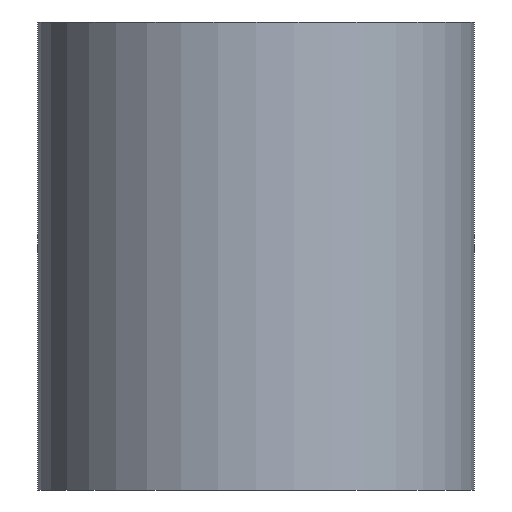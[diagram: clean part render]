
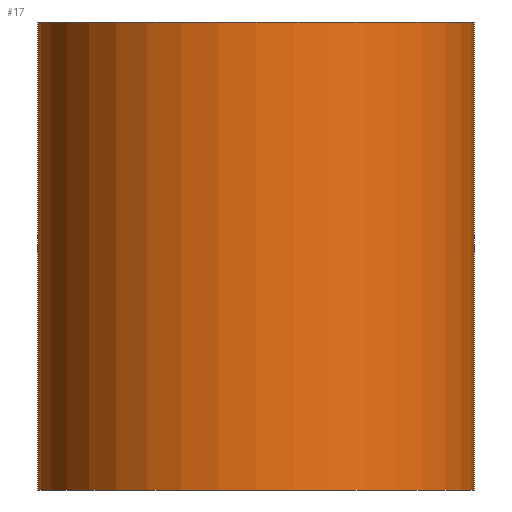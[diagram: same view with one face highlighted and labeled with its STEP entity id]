
A CAD part, front view. The second image highlights one B-rep face of the part: STEP entity #17.
In plain terms, the highlighted cylindrical face has radius 9 mm (diameter 18 mm), a full revolution.
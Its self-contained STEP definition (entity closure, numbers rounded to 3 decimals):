
#17 = ADVANCED_FACE('',(#18),#31,.T.);
#18 = FACE_BOUND('',#19,.T.);
#19 = EDGE_LOOP('',(#20,#54,#77,#104));
#20 = ORIENTED_EDGE('',*,*,#21,.F.);
#21 = EDGE_CURVE('',#22,#22,#24,.T.);
#22 = VERTEX_POINT('',#23);
#23 = CARTESIAN_POINT('',(9.,0.,9.65));
#24 = SURFACE_CURVE('',#25,(#30,#42),.PCURVE_S1.);
#25 = CIRCLE('',#26,9.);
#26 = AXIS2_PLACEMENT_3D('',#27,#28,#29);
#27 = CARTESIAN_POINT('',(0.,0.,9.65));
#28 = DIRECTION('',(0.,0.,1.));
#29 = DIRECTION('',(1.,0.,0.));
#30 = PCURVE('',#31,#36);
#31 = CYLINDRICAL_SURFACE('',#32,9.);
#32 = AXIS2_PLACEMENT_3D('',#33,#34,#35);
#33 = CARTESIAN_POINT('',(0.,0.,-9.65));
#34 = DIRECTION('',(0.,0.,1.));
#35 = DIRECTION('',(1.,0.,0.));
#36 = DEFINITIONAL_REPRESENTATION('',(#37),#41);
#37 = LINE('',#38,#39);
#38 = CARTESIAN_POINT('',(0.,19.3));
#39 = VECTOR('',#40,1.);
#40 = DIRECTION('',(1.,0.));
#41 = ( GEOMETRIC_REPRESENTATION_CONTEXT(2) 
PARAMETRIC_REPRESENTATION_CONTEXT() REPRESENTATION_CONTEXT('2D SPACE',''
  ) );
#42 = PCURVE('',#43,#48);
#43 = PLANE('',#44);
#44 = AXIS2_PLACEMENT_3D('',#45,#46,#47);
#45 = CARTESIAN_POINT('',(0.,0.,9.65));
#46 = DIRECTION('',(0.,0.,1.));
#47 = DIRECTION('',(1.,0.,0.));
#48 = DEFINITIONAL_REPRESENTATION('',(#49),#53);
#49 = CIRCLE('',#50,9.);
#50 = AXIS2_PLACEMENT_2D('',#51,#52);
#51 = CARTESIAN_POINT('',(0.,0.));
#52 = DIRECTION('',(1.,0.));
#53 = ( GEOMETRIC_REPRESENTATION_CONTEXT(2) 
PARAMETRIC_REPRESENTATION_CONTEXT() REPRESENTATION_CONTEXT('2D SPACE',''
  ) );
#54 = ORIENTED_EDGE('',*,*,#55,.F.);
#55 = EDGE_CURVE('',#56,#22,#58,.T.);
#56 = VERTEX_POINT('',#57);
#57 = CARTESIAN_POINT('',(9.,0.,-9.65));
#58 = SEAM_CURVE('',#59,(#63,#70),.PCURVE_S1.);
#59 = LINE('',#60,#61);
#60 = CARTESIAN_POINT('',(9.,0.,-9.65));
#61 = VECTOR('',#62,1.);
#62 = DIRECTION('',(0.,0.,1.));
#63 = PCURVE('',#31,#64);
#64 = DEFINITIONAL_REPRESENTATION('',(#65),#69);
#65 = LINE('',#66,#67);
#66 = CARTESIAN_POINT('',(6.283,-0.));
#67 = VECTOR('',#68,1.);
#68 = DIRECTION('',(0.,1.));
#69 = ( GEOMETRIC_REPRESENTATION_CONTEXT(2) 
PARAMETRIC_REPRESENTATION_CONTEXT() REPRESENTATION_CONTEXT('2D SPACE',''
  ) );
#70 = PCURVE('',#31,#71);
#71 = DEFINITIONAL_REPRESENTATION('',(#72),#76);
#72 = LINE('',#73,#74);
#73 = CARTESIAN_POINT('',(0.,-0.));
#74 = VECTOR('',#75,1.);
#75 = DIRECTION('',(0.,1.));
#76 = ( GEOMETRIC_REPRESENTATION_CONTEXT(2) 
PARAMETRIC_REPRESENTATION_CONTEXT() REPRESENTATION_CONTEXT('2D SPACE',''
  ) );
#77 = ORIENTED_EDGE('',*,*,#78,.T.);
#78 = EDGE_CURVE('',#56,#56,#79,.T.);
#79 = SURFACE_CURVE('',#80,(#85,#92),.PCURVE_S1.);
#80 = CIRCLE('',#81,9.);
#81 = AXIS2_PLACEMENT_3D('',#82,#83,#84);
#82 = CARTESIAN_POINT('',(0.,0.,-9.65));
#83 = DIRECTION('',(0.,0.,1.));
#84 = DIRECTION('',(1.,0.,0.));
#85 = PCURVE('',#31,#86);
#86 = DEFINITIONAL_REPRESENTATION('',(#87),#91);
#87 = LINE('',#88,#89);
#88 = CARTESIAN_POINT('',(0.,0.));
#89 = VECTOR('',#90,1.);
#90 = DIRECTION('',(1.,0.));
#91 = ( GEOMETRIC_REPRESENTATION_CONTEXT(2) 
PARAMETRIC_REPRESENTATION_CONTEXT() REPRESENTATION_CONTEXT('2D SPACE',''
  ) );
#92 = PCURVE('',#93,#98);
#93 = PLANE('',#94);
#94 = AXIS2_PLACEMENT_3D('',#95,#96,#97);
#95 = CARTESIAN_POINT('',(0.,0.,-9.65));
#96 = DIRECTION('',(0.,0.,1.));
#97 = DIRECTION('',(1.,0.,0.));
#98 = DEFINITIONAL_REPRESENTATION('',(#99),#103);
#99 = CIRCLE('',#100,9.);
#100 = AXIS2_PLACEMENT_2D('',#101,#102);
#101 = CARTESIAN_POINT('',(0.,0.));
#102 = DIRECTION('',(1.,0.));
#103 = ( GEOMETRIC_REPRESENTATION_CONTEXT(2) 
PARAMETRIC_REPRESENTATION_CONTEXT() REPRESENTATION_CONTEXT('2D SPACE',''
  ) );
#104 = ORIENTED_EDGE('',*,*,#55,.T.);
